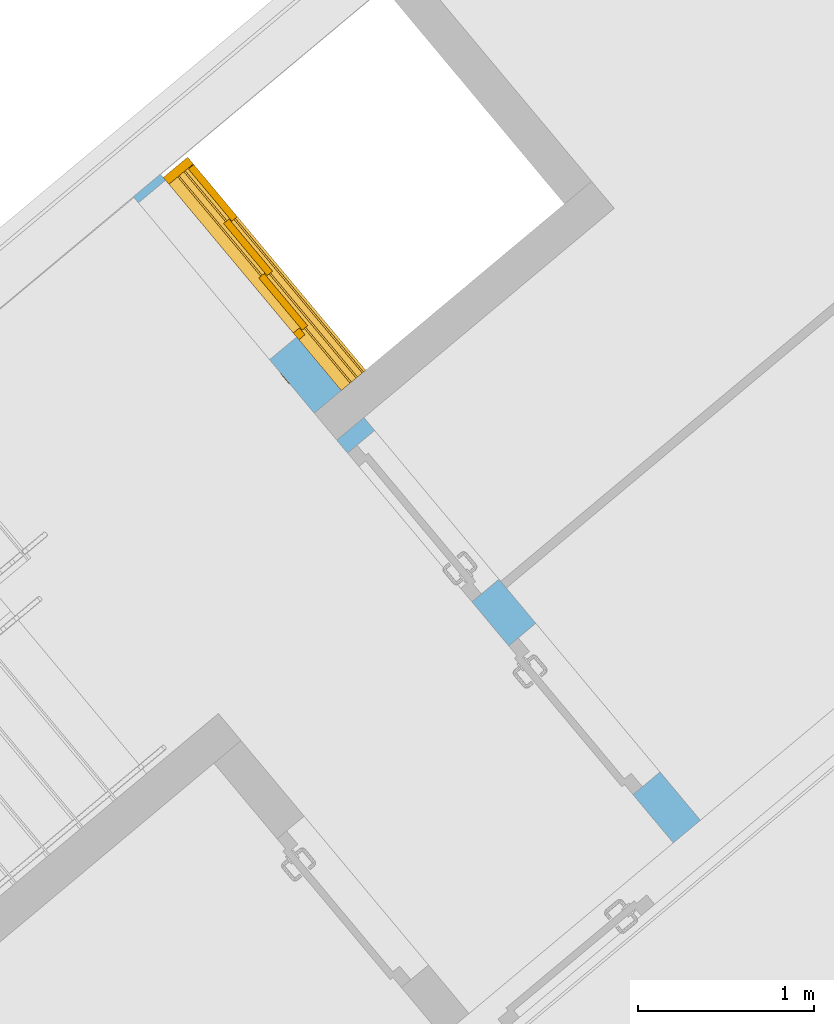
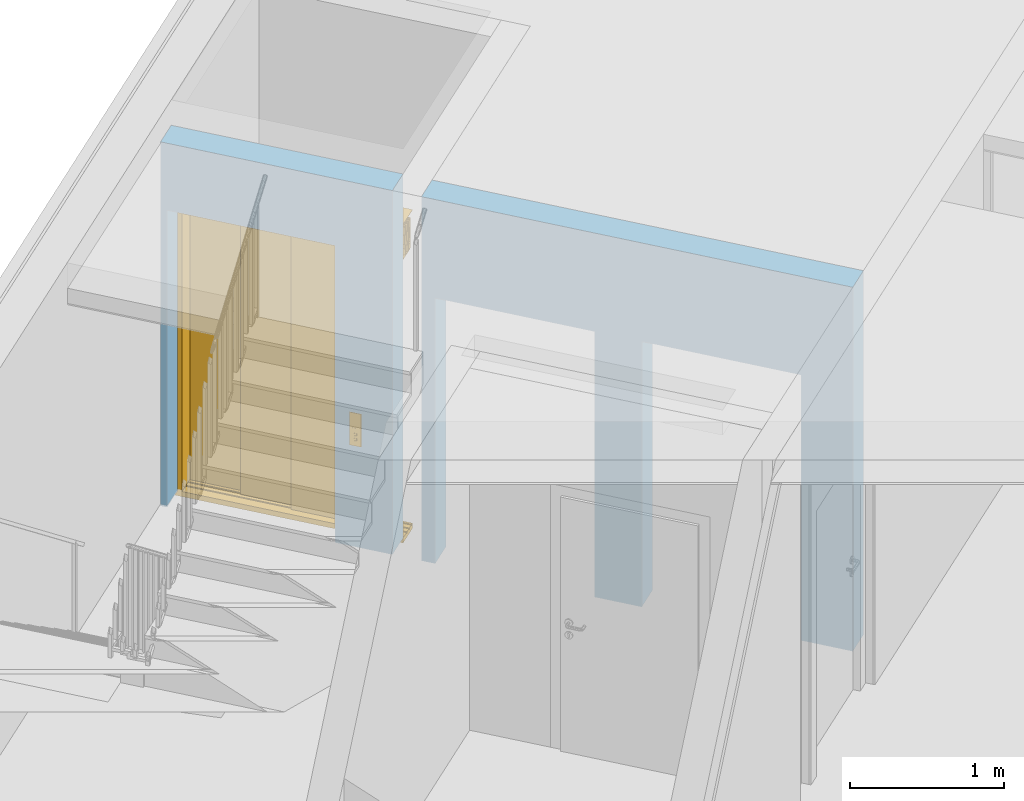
# One storey, part 5 of 17: 1 door, 3 openings, plus 1 element that does not belong to this part.
"""IFC4 building model written with IfcOpenShell, lengths in metres."""

from ifc_helpers import new_model, entity, si_unit, converted_unit, derived_unit, direction, frame, origin_with_axes, place, context, subcontext, project, spatial, polygons, material, type_object, element, fill, save


model = new_model("IFC4")

# Units and contexts
model_context = context("Model", 3, precision=1e-05, world=origin_with_axes(), true_north=direction((0.0, 1.0)))
body_context = subcontext(model_context, "Body", "Model", "MODEL_VIEW")
ifc_project = project(units=[si_unit("LENGTHUNIT", "METRE"), si_unit("AREAUNIT", "SQUARE_METRE"), si_unit("VOLUMEUNIT", "CUBIC_METRE"), converted_unit("PLANEANGLEUNIT", "DEGREE", entity("IfcPlaneAngleMeasure", 0.0174532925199), si_unit("PLANEANGLEUNIT", "RADIAN"), dimensions=[0, 0, 0, 0, 0, 0, 0]), converted_unit("TIMEUNIT", "Year", entity("IfcTimeMeasure", 31556926.0), si_unit("TIMEUNIT", "SECOND"), dimensions=[0, 0, 1, 0, 0, 0, 0]), si_unit("MASSUNIT", "GRAM", prefix="KILO"), si_unit("THERMODYNAMICTEMPERATUREUNIT", "DEGREE_CELSIUS"), si_unit("LUMINOUSINTENSITYUNIT", "LUMEN"), si_unit("ENERGYUNIT", "JOULE", prefix="MEGA"), derived_unit("THERMALCONDUCTANCEUNIT", [(si_unit("POWERUNIT", "WATT"), 1), (si_unit("LENGTHUNIT", "METRE"), -1), (si_unit("THERMODYNAMICTEMPERATUREUNIT", "KELVIN"), -1)]), derived_unit("SPECIFICHEATCAPACITYUNIT", [(si_unit("ENERGYUNIT", "JOULE"), 1), (si_unit("MASSUNIT", "GRAM", prefix="KILO"), -1), (si_unit("THERMODYNAMICTEMPERATUREUNIT", "KELVIN"), -1)]), derived_unit("MASSDENSITYUNIT", [(si_unit("MASSUNIT", "GRAM", prefix="KILO"), 1), (si_unit("VOLUMEUNIT", "CUBIC_METRE"), -1)])], contexts=[model_context])

# Site, building, storey
site_placement = place(None, frame((-0.00153261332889, -0.00661245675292, 0.0), z_axis=(0.0, 0.0, 1.0), x_axis=(1.0, 0.0, 0.0)))
site = spatial("IfcSite", under=ifc_project, at=site_placement, Name="Site", CompositionType="ELEMENT")
building_placement = place(site_placement, origin_with_axes())
building = spatial("IfcBuilding", under=site, at=building_placement, Name="Building", CompositionType="ELEMENT")
storey_placement = place(building_placement, frame((0.0, 0.0, -3.3), z_axis=(0.0, 0.0, 1.0), x_axis=(1.0, 0.0, 0.0)))
storey = spatial("IfcBuildingStorey", under=building, at=storey_placement, Name="UG1", CompositionType="ELEMENT", Elevation=-3.3)

# Wall, openings, door
ifc_material = material(Name="Stahlbeton Wand")
wall_type = type_object("IfcWallType", Name="Stahlbeton Wand 200", PredefinedType="NOTDEFINED")
wall_placement = place(storey_placement, frame((3.39972062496, 22.3471640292, 0.0), z_axis=(0.0, 0.0, 1.0), x_axis=(-0.641209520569, 0.767365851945, 0.0)))
wall = element("IfcWall", 1, at=wall_placement, inside=storey, type_object=wall_type, material=ifc_material, Name="Wand-009", PredefinedType="NOTDEFINED", context=body_context, shape_type="Tessellation", body=[
    polygons([(4.7320246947, -8.03421412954e-06, 2.35), (4.7320246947, -8.03415262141e-06, 0.015), (4.7320246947, -8.03415262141e-06, 0.0), (4.77700945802, 0.0, 0.0), (4.77700945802, 0.0, 2.88), (3.17702469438, 0.0, 2.88), (3.17702469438, 0.0, 0.0), (3.5720246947, -8.03421413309e-06, 0.0), (3.5720246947, -8.03421412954e-06, 0.015), (3.5720246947, -8.03421412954e-06, 2.35), (4.7320246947, 0.2, 2.35), (4.7320246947, 0.2, 0.015), (4.7320246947, 0.2, 0.0), (4.77700957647, 0.2, 0.0), (4.77700957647, 0.2, 2.88), (3.17702469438, 0.2, 2.88), (3.17702469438, 0.2, 0.0), (3.5720246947, 0.2, 0.0), (3.5720246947, 0.2, 0.015), (3.5720246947, 0.2, 2.35)], [[[1, 2, 3, 4, 5, 6, 7, 8, 9, 10]], [[2, 1, 11, 12]], [[2, 12, 13, 3]], [[3, 13, 14, 4]], [[4, 14, 15, 5]], [[5, 15, 16, 6]], [[16, 17, 7, 6]], [[18, 8, 7, 17]], [[19, 9, 8, 18]], [[10, 9, 19, 20]], [[1, 10, 20, 11]], [[20, 19, 18, 17, 16, 15, 14, 13, 12, 11]]], closed=True),
    polygons([(1.78187331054, 0.13, 0.015), (1.78187331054, 0.2, 0.015), (1.78187331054, 0.2, 2.1), (1.78187331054, 0.0, 2.1), (1.78187331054, 0.0, 0.015), (1.78187331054, 0.0, 0.0), (1.78187331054, 0.2, 0.0), (1.45642288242, 0.2, 0.0), (1.45642288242, 0.2, 0.015), (1.45642288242, 0.2, 2.1), (0.356422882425, 0.2, 2.1), (0.356422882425, 0.2, 0.015), (0.356422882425, 0.2, 0.0), (0.0, 0.2, 0.0), (0.0, 0.2, 2.88), (2.97702469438, 0.2, 2.88), (2.97702469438, 0.2, 0.0), (2.88187331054, 0.2, 0.0), (2.88187331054, 0.2, 0.015), (2.88187331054, 0.2, 2.1), (2.88187331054, 0.0, 2.1), (2.88187331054, 0.0, 0.015), (2.88187331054, 0.0, 0.0), (2.97702469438, 0.0, 0.0), (2.97702469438, 0.0, 2.88), (0.0, 0.0, 2.88), (0.0, 0.0, 0.0), (0.356422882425, 0.0, 0.0), (0.356422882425, 0.0, 0.015), (0.356422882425, 0.0, 2.1), (1.45642288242, 0.0, 2.1), (1.45642288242, 0.0, 0.015), (1.45642288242, 0.0, 0.0), (2.88187331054, 0.13, 0.015)], [[[1, 2, 3, 4, 5]], [[2, 1, 5, 6, 7]], [[3, 2, 7, 8, 9, 10, 11, 12, 13, 14, 15, 16, 17, 18, 19, 20]], [[4, 3, 20, 21]], [[6, 5, 4, 21, 22, 23, 24, 25, 26, 27, 28, 29, 30, 31, 32, 33]], [[33, 8, 7, 6]], [[8, 33, 32, 9]], [[10, 9, 32, 31]], [[11, 10, 31, 30]], [[12, 11, 30, 29]], [[28, 13, 12, 29]], [[27, 14, 13, 28]], [[27, 26, 15, 14]], [[15, 26, 25, 16]], [[16, 25, 24, 17]], [[17, 24, 23, 18]], [[34, 19, 18, 23, 22]], [[20, 19, 34, 22, 21]]], closed=True),
])
opening_1_placement = place(wall_placement, frame((0.906422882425, 0.0, 0.0), z_axis=(0.0, 0.0, 1.0), x_axis=(1.0, 0.0, 0.0)))
element("IfcOpeningElement", 2, at=opening_1_placement, cuts=wall, Name="Tür-001", context=body_context, identifier="Reference", shape_type="Tessellation", body=[
    polygons([(-0.55, -2.52370547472, 2.1), (-0.55, -2.52370547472, 0.0), (0.55, -2.52370547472, 0.0), (0.55, -2.52370547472, 2.1), (-0.55, 2.72370547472, 2.1), (-0.55, 2.72370547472, 0.0), (0.55, 2.72370547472, 0.0), (0.55, 2.72370547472, 2.1)], [[[1, 2, 3, 4]], [[5, 6, 2, 1]], [[6, 7, 3, 2]], [[7, 8, 4, 3]], [[8, 5, 1, 4]], [[7, 6, 5, 8]]], closed=True),
])
opening_2_placement = place(wall_placement, frame((2.33187331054, 0.0, 0.0), z_axis=(0.0, 0.0, 1.0), x_axis=(1.0, 0.0, 0.0)))
element("IfcOpeningElement", 3, at=opening_2_placement, cuts=wall, Name="Tür-001", context=body_context, identifier="Reference", shape_type="Tessellation", body=[
    polygons([(0.55, 0.13, 0.0), (0.55, 0.13, 2.1), (0.55, -2.52370547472, 2.1), (0.55, -2.52370547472, 0.0), (0.55, 2.72370547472, 0.0), (0.55, 2.72370547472, 2.1), (-0.55, 0.13, 2.1), (-0.55, -2.52370547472, 2.1), (-0.55, 2.72370547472, 2.1), (-0.55, -2.52370547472, 0.0), (-0.55, 0.13, 0.0), (-0.55, 2.72370547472, 0.0)], [[[1, 2, 3, 4]], [[2, 1, 5, 6]], [[7, 8, 3, 2, 6, 9]], [[8, 10, 4, 3]], [[1, 4, 10, 11, 12, 5]], [[6, 5, 12, 9]], [[7, 11, 10, 8]], [[11, 7, 9, 12]]], closed=True),
])
opening_3_placement = place(wall_placement, frame((4.1520246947, 0.0, 0.0), z_axis=(0.0, 0.0, 1.0), x_axis=(1.0, 0.0, 0.0)))
opening_3 = element("IfcOpeningElement", 4, at=opening_3_placement, cuts=wall, Name="Tür-003", context=body_context, identifier="Reference", shape_type="Tessellation", body=[
    polygons([(0.58, 2.72370547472, 2.35), (0.58, 2.72370547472, 0.0), (-0.58, 2.72370547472, 0.0), (-0.58, 2.72370547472, 2.35), (0.58, -2.52370547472, 2.35), (0.58, -2.52370547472, 0.0), (-0.58, -2.52370547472, 0.0), (-0.58, -2.52370547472, 2.35)], [[[1, 2, 3, 4]], [[5, 6, 2, 1]], [[6, 7, 3, 2]], [[7, 8, 4, 3]], [[8, 5, 1, 4]], [[7, 6, 5, 8]]], closed=True),
])
door_type = type_object("IfcDoorType", Name="Teleskoptür 26", OperationType="DOUBLE_DOOR_SLIDING", PredefinedType="NOTDEFINED")
door_placement = place(opening_3_placement, frame((0.55, 0.0, 0.0), z_axis=(0.0, 0.0, 1.0), x_axis=(-1.0, 0.0, 0.0)))
door = element("IfcDoor", 5, at=door_placement, inside=storey, type_object=door_type, Name="Tür-003", OverallHeight=2.35, OverallWidth=1.16, PredefinedType="NOTDEFINED", context=body_context, shape_type="Tessellation", body=[
    polygons([(1.525, 0.135, 2.2), (-0.05, 0.135, 2.2), (-0.05, 0.135, 2.238), (1.525, 0.135, 2.238), (1.525, 0.0, 2.2), (-0.05, 0.0, 2.2), (-0.05, 0.0, 2.48), (-0.05, 0.18, 2.48), (-0.05, 0.18, 2.477), (-0.05, 0.003, 2.477), (-0.05, 0.003, 2.203), (-0.05, 0.132, 2.203), (-0.05, 0.132, 2.238), (1.525, 0.132, 2.238), (1.525, 0.132, 2.203), (1.525, 0.003, 2.203), (1.525, 0.003, 2.477), (1.525, 0.18, 2.477), (1.525, 0.18, 2.48), (1.525, 0.0, 2.48)], [[[1, 2, 3, 4]], [[5, 6, 2, 1]], [[2, 6, 7, 8, 9, 10, 11, 12, 13, 3]], [[4, 3, 13, 14]], [[1, 4, 14, 15, 16, 17, 18, 19, 20, 5]], [[20, 7, 6, 5]], [[19, 8, 7, 20]], [[18, 9, 8, 19]], [[17, 10, 9, 18]], [[16, 11, 10, 17]], [[15, 12, 11, 16]], [[14, 13, 12, 15]]], closed=True),
    polygons([(1.525, 0.05, 2.203), (-0.05, 0.05, 2.203), (-0.05, 0.055, 2.203), (1.525, 0.055, 2.203), (1.525, 0.05, 2.44), (-0.05, 0.05, 2.44), (-0.05, 0.055, 2.44), (1.525, 0.055, 2.44)], [[[1, 2, 3, 4]], [[5, 6, 2, 1]], [[2, 6, 7, 3]], [[4, 3, 7, 8]], [[1, 4, 8, 5]], [[8, 7, 6, 5]]], closed=True),
    polygons([(1.525, 0.05, 2.43), (-0.05, 0.05, 2.43), (-0.05, 0.04, 2.43), (1.525, 0.04, 2.43), (1.525, 0.05, 2.37), (-0.05, 0.05, 2.37), (-0.05, 0.04, 2.37), (1.525, 0.04, 2.37)], [[[1, 2, 3, 4]], [[5, 6, 2, 1]], [[2, 6, 7, 3]], [[4, 3, 7, 8]], [[1, 4, 8, 5]], [[8, 7, 6, 5]]], closed=True),
    polygons([(1.525, 0.05, 2.3), (-0.05, 0.05, 2.3), (-0.05, 0.04, 2.3), (1.525, 0.04, 2.3), (1.525, 0.05, 2.26), (-0.05, 0.05, 2.26), (-0.05, 0.04, 2.26), (1.525, 0.04, 2.26)], [[[1, 2, 3, 4]], [[5, 6, 2, 1]], [[2, 6, 7, 3]], [[4, 3, 7, 8]], [[1, 4, 8, 5]], [[8, 7, 6, 5]]], closed=True),
    polygons([(1.525, 0.05, 2.37), (-0.05, 0.05, 2.37), (-0.05, 0.03, 2.37), (1.525, 0.03, 2.37), (1.525, 0.05, 2.3), (-0.05, 0.05, 2.3), (-0.05, 0.03, 2.3), (1.525, 0.03, 2.3)], [[[1, 2, 3, 4]], [[5, 6, 2, 1]], [[2, 6, 7, 3]], [[4, 3, 7, 8]], [[1, 4, 8, 5]], [[8, 7, 6, 5]]], closed=True),
    polygons([(1.525, 0.095, 2.203), (-0.05, 0.095, 2.203), (-0.05, 0.1, 2.203), (1.525, 0.1, 2.203), (1.525, 0.095, 2.44), (-0.05, 0.095, 2.44), (-0.05, 0.1, 2.44), (1.525, 0.1, 2.44)], [[[1, 2, 3, 4]], [[5, 6, 2, 1]], [[2, 6, 7, 3]], [[4, 3, 7, 8]], [[1, 4, 8, 5]], [[8, 7, 6, 5]]], closed=True),
    polygons([(1.525, 0.095, 2.43), (-0.05, 0.095, 2.43), (-0.05, 0.085, 2.43), (1.525, 0.085, 2.43), (1.525, 0.095, 2.37), (-0.05, 0.095, 2.37), (-0.05, 0.085, 2.37), (1.525, 0.085, 2.37)], [[[1, 2, 3, 4]], [[5, 6, 2, 1]], [[2, 6, 7, 3]], [[4, 3, 7, 8]], [[1, 4, 8, 5]], [[8, 7, 6, 5]]], closed=True),
    polygons([(1.525, 0.095, 2.3), (-0.05, 0.095, 2.3), (-0.05, 0.085, 2.3), (1.525, 0.085, 2.3), (1.525, 0.095, 2.26), (-0.05, 0.095, 2.26), (-0.05, 0.085, 2.26), (1.525, 0.085, 2.26)], [[[1, 2, 3, 4]], [[5, 6, 2, 1]], [[2, 6, 7, 3]], [[4, 3, 7, 8]], [[1, 4, 8, 5]], [[8, 7, 6, 5]]], closed=True),
    polygons([(1.525, 0.095, 2.37), (-0.05, 0.095, 2.37), (-0.05, 0.075, 2.37), (1.525, 0.075, 2.37), (1.525, 0.095, 2.3), (-0.05, 0.095, 2.3), (-0.05, 0.075, 2.3), (1.525, 0.075, 2.3)], [[[1, 2, 3, 4]], [[5, 6, 2, 1]], [[2, 6, 7, 3]], [[4, 3, 7, 8]], [[1, 4, 8, 5]], [[8, 7, 6, 5]]], closed=True),
    polygons([(1.525, 0.14, 2.203), (-0.05, 0.14, 2.203), (-0.05, 0.145, 2.203), (1.525, 0.145, 2.203), (1.525, 0.14, 2.44), (-0.05, 0.14, 2.44), (-0.05, 0.145, 2.44), (1.525, 0.145, 2.44)], [[[1, 2, 3, 4]], [[5, 6, 2, 1]], [[2, 6, 7, 3]], [[4, 3, 7, 8]], [[1, 4, 8, 5]], [[8, 7, 6, 5]]], closed=True),
    polygons([(1.525, 0.14, 2.43), (-0.05, 0.14, 2.43), (-0.05, 0.13, 2.43), (1.525, 0.13, 2.43), (1.525, 0.14, 2.37), (-0.05, 0.14, 2.37), (-0.05, 0.13, 2.37), (1.525, 0.13, 2.37)], [[[1, 2, 3, 4]], [[5, 6, 2, 1]], [[2, 6, 7, 3]], [[4, 3, 7, 8]], [[1, 4, 8, 5]], [[8, 7, 6, 5]]], closed=True),
    polygons([(1.525, 0.14, 2.3), (-0.05, 0.14, 2.3), (-0.05, 0.13, 2.3), (1.525, 0.13, 2.3), (1.525, 0.14, 2.26), (-0.05, 0.14, 2.26), (-0.05, 0.13, 2.26), (1.525, 0.13, 2.26)], [[[1, 2, 3, 4]], [[5, 6, 2, 1]], [[2, 6, 7, 3]], [[4, 3, 7, 8]], [[1, 4, 8, 5]], [[8, 7, 6, 5]]], closed=True),
    polygons([(1.525, 0.14, 2.37), (-0.05, 0.14, 2.37), (-0.05, 0.12, 2.37), (1.525, 0.12, 2.37), (1.525, 0.14, 2.3), (-0.05, 0.14, 2.3), (-0.05, 0.12, 2.3), (1.525, 0.12, 2.3)], [[[1, 2, 3, 4]], [[5, 6, 2, 1]], [[2, 6, 7, 3]], [[4, 3, 7, 8]], [[1, 4, 8, 5]], [[8, 7, 6, 5]]], closed=True),
    polygons([(1.525, 0.0, 0.0), (-0.05, 0.0, 0.0), (-0.05, 0.0, -0.04), (1.525, 0.0, -0.04), (1.525, 0.065, 0.0), (-0.05, 0.065, 0.0), (-0.05, 0.065, -0.01), (-0.05, 0.075, -0.01), (-0.05, 0.075, 0.0), (-0.05, 0.11, 0.0), (-0.05, 0.11, -0.01), (-0.05, 0.12, -0.01), (-0.05, 0.12, 0.0), (-0.05, 0.155, 0.0), (-0.05, 0.155, -0.01), (-0.05, 0.165, -0.01), (-0.05, 0.165, 0.0), (-0.05, 0.18, 0.0), (-0.05, 0.18, -0.04), (1.525, 0.18, -0.04), (1.525, 0.18, 0.0), (1.525, 0.165, 0.0), (1.525, 0.165, -0.01), (1.525, 0.155, -0.01), (1.525, 0.155, 0.0), (1.525, 0.12, 0.0), (1.525, 0.12, -0.01), (1.525, 0.11, -0.01), (1.525, 0.11, 0.0), (1.525, 0.075, 0.0), (1.525, 0.075, -0.01), (1.525, 0.065, -0.01)], [[[1, 2, 3, 4]], [[5, 6, 2, 1]], [[2, 6, 7, 8, 9, 10, 11, 12, 13, 14, 15, 16, 17, 18, 19, 3]], [[4, 3, 19, 20]], [[1, 4, 20, 21, 22, 23, 24, 25, 26, 27, 28, 29, 30, 31, 32, 5]], [[32, 7, 6, 5]], [[31, 8, 7, 32]], [[30, 9, 8, 31]], [[29, 10, 9, 30]], [[28, 11, 10, 29]], [[27, 12, 11, 28]], [[26, 13, 12, 27]], [[25, 14, 13, 26]], [[24, 15, 14, 25]], [[23, 16, 15, 24]], [[22, 17, 16, 23]], [[21, 18, 17, 22]], [[20, 19, 18, 21]]], closed=True),
    polygons([(1.1, 0.0, 0.0), (1.1, 0.0, 2.2), (1.1, 0.045, 2.2), (1.1, 0.045, 0.0), (1.15, 0.0, 0.0), (1.15, 0.0, 2.2), (1.15, 0.045, 2.2), (1.15, 0.045, 0.0)], [[[1, 2, 3, 4]], [[5, 6, 2, 1]], [[2, 6, 7, 3]], [[4, 3, 7, 8]], [[1, 4, 8, 5]], [[8, 7, 6, 5]]], closed=True),
    polygons([(-0.05, 0.0, 0.0), (-0.05, 0.0, 2.2), (-0.05, 0.18, 2.2), (-0.05, 0.18, 0.0), (0.0, 0.0, 0.0), (0.0, 0.0, 2.2), (0.0, 0.18, 2.2), (0.0, 0.18, 0.0)], [[[1, 2, 3, 4]], [[5, 6, 2, 1]], [[2, 6, 7, 3]], [[4, 3, 7, 8]], [[1, 4, 8, 5]], [[8, 7, 6, 5]]], closed=True),
    polygons([(1.23, -0.2, 0.8), (1.31, -0.2, 0.8), (1.31, -0.203, 0.8), (1.23, -0.203, 0.8), (1.23, -0.2, 1.06), (1.31, -0.2, 1.06), (1.24, -0.2, 1.03), (1.24, -0.2, 0.94), (1.3, -0.2, 0.94), (1.3, -0.2, 1.03), (1.26, -0.2, 0.84), (1.28, -0.2, 0.84), (1.28, -0.2, 0.86), (1.26, -0.2, 0.86), (1.26, -0.2, 0.88), (1.28, -0.2, 0.88), (1.28, -0.2, 0.9), (1.26, -0.2, 0.9), (1.31, -0.203, 1.06), (1.23, -0.203, 1.06), (1.24, -0.203, 1.03), (1.3, -0.203, 1.03), (1.3, -0.203, 0.94), (1.24, -0.203, 0.94), (1.26, -0.203, 0.84), (1.26, -0.203, 0.86), (1.28, -0.203, 0.86), (1.28, -0.203, 0.84), (1.26, -0.203, 0.88), (1.26, -0.203, 0.9), (1.28, -0.203, 0.9), (1.28, -0.203, 0.88)], [[[1, 2, 3, 4]], [[1, 5, 6, 2], [7, 8, 9, 10], [11, 12, 13, 14], [15, 16, 17, 18]], [[2, 6, 19, 3]], [[4, 3, 19, 20], [21, 22, 23, 24], [25, 26, 27, 28], [29, 30, 31, 32]], [[5, 1, 4, 20]], [[6, 5, 20, 19]], [[8, 7, 21, 24]], [[9, 8, 24, 23]], [[10, 9, 23, 22]], [[7, 10, 22, 21]], [[12, 11, 25, 28]], [[13, 12, 28, 27]], [[14, 13, 27, 26]], [[11, 14, 26, 25]], [[16, 15, 29, 32]], [[17, 16, 32, 31]], [[18, 17, 31, 30]], [[15, 18, 30, 29]]], closed=True),
    polygons([(1.24, -0.2, 0.94), (1.3, -0.2, 0.94), (1.3, -0.2025, 0.94), (1.24, -0.2025, 0.94), (1.24, -0.2, 1.03), (1.3, -0.2, 1.03), (1.3, -0.2025, 1.03), (1.24, -0.2025, 1.03)], [[[1, 2, 3, 4]], [[1, 5, 6, 2]], [[2, 6, 7, 3]], [[4, 3, 7, 8]], [[5, 1, 4, 8]], [[6, 5, 8, 7]]], closed=True),
    polygons([(1.254, -0.203, 1.005), (1.26, -0.203, 1.021), (1.266, -0.203, 1.005)], [[[1, 2, 3]]], closed=False),
    polygons([(1.28, -0.203, 1.005), (1.274, -0.203, 1.021), (1.286, -0.203, 1.021)], [[[1, 2, 3]]], closed=False),
    polygons([(1.26727272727, -0.2035, 0.982), (1.26727272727, -0.2035, 0.971636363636), (1.26590909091, -0.2035, 0.970272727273), (1.26454545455, -0.2035, 0.971636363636), (1.26454545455, -0.2035, 0.982), (1.26590909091, -0.2035, 0.983363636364)], [[[1, 2, 3, 4, 5, 6]]], closed=False),
    polygons([(1.26727272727, -0.2035, 0.968363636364), (1.26727272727, -0.2035, 0.958), (1.26590909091, -0.2035, 0.956636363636), (1.26454545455, -0.2035, 0.958), (1.26454545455, -0.2035, 0.968363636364), (1.26590909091, -0.2035, 0.969727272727)], [[[1, 2, 3, 4, 5, 6]]], closed=False),
    polygons([(1.28609090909, -0.2035, 0.982272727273), (1.27572727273, -0.2035, 0.982272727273), (1.27436363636, -0.2035, 0.983636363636), (1.27572727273, -0.2035, 0.985), (1.28609090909, -0.2035, 0.985), (1.28745454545, -0.2035, 0.983636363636)], [[[1, 2, 3, 4, 5, 6]]], closed=False),
    polygons([(1.28909090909, -0.2035, 0.982), (1.28909090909, -0.2035, 0.971636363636), (1.28772727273, -0.2035, 0.970272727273), (1.28636363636, -0.2035, 0.971636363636), (1.28636363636, -0.2035, 0.982), (1.28772727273, -0.2035, 0.983363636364)], [[[1, 2, 3, 4, 5, 6]]], closed=False),
    polygons([(1.28609090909, -0.2035, 0.968636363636), (1.27572727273, -0.2035, 0.968636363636), (1.27436363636, -0.2035, 0.97), (1.27572727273, -0.2035, 0.971363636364), (1.28609090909, -0.2035, 0.971363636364), (1.28745454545, -0.2035, 0.97)], [[[1, 2, 3, 4, 5, 6]]], closed=False),
    polygons([(1.27545454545, -0.2035, 0.968363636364), (1.27545454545, -0.2035, 0.958), (1.27409090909, -0.2035, 0.956636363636), (1.27272727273, -0.2035, 0.958), (1.27272727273, -0.2035, 0.968363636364), (1.27409090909, -0.2035, 0.969727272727)], [[[1, 2, 3, 4, 5, 6]]], closed=False),
    polygons([(1.28609090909, -0.2035, 0.955), (1.27572727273, -0.2035, 0.955), (1.27436363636, -0.2035, 0.956363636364), (1.27572727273, -0.2035, 0.957727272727), (1.28609090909, -0.2035, 0.957727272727), (1.28745454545, -0.2035, 0.956363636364)], [[[1, 2, 3, 4, 5, 6]]], closed=False),
    polygons([(1.28, -0.2, 0.84), (1.26, -0.2, 0.84), (1.26, -0.2, 0.86), (1.28, -0.2, 0.86), (1.28000000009, -0.2015, 0.83999999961), (1.25999999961, -0.2015, 0.83999999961), (1.25999999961, -0.2015, 0.860000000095), (1.28000000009, -0.2015, 0.860000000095), (1.27859999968, -0.202900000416, 0.841400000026), (1.26140000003, -0.202900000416, 0.841400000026), (1.26140000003, -0.202900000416, 0.858599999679), (1.27859999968, -0.202900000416, 0.858599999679)], [[[1, 2, 3, 4]], [[2, 1, 5, 6]], [[3, 2, 6, 7]], [[4, 3, 7, 8]], [[1, 4, 8, 5]], [[6, 5, 9, 10]], [[7, 6, 10, 11]], [[8, 7, 11, 12]], [[5, 8, 12, 9]], [[11, 10, 9, 12]]], closed=True),
    polygons([(1.275, -0.203, 0.855), (1.27, -0.203, 0.844), (1.265, -0.203, 0.855)], [[[1, 2, 3]]], closed=False),
    polygons([(1.28, -0.2, 0.88), (1.26, -0.2, 0.88), (1.26, -0.2, 0.9), (1.28, -0.2, 0.9), (1.28000000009, -0.2015, 0.87999999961), (1.25999999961, -0.2015, 0.87999999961), (1.25999999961, -0.2015, 0.900000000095), (1.28000000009, -0.2015, 0.900000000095), (1.27859999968, -0.202900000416, 0.881400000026), (1.26140000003, -0.202900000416, 0.881400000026), (1.26140000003, -0.202900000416, 0.898599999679), (1.27859999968, -0.202900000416, 0.898599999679)], [[[1, 2, 3, 4]], [[2, 1, 5, 6]], [[3, 2, 6, 7]], [[4, 3, 7, 8]], [[1, 4, 8, 5]], [[6, 5, 9, 10]], [[7, 6, 10, 11]], [[8, 7, 11, 12]], [[5, 8, 12, 9]], [[11, 10, 9, 12]]], closed=True),
    polygons([(1.275, -0.203, 0.885), (1.265, -0.203, 0.885), (1.27, -0.203, 0.896)], [[[1, 2, 3]]], closed=False),
    polygons([(0.39, 0.14, 0.003), (0.005, 0.14, 0.003), (0.005, 0.18, 0.003), (0.39, 0.18, 0.003), (0.39, 0.14, 2.2), (0.005, 0.14, 2.2), (0.005, 0.18, 2.2), (0.39, 0.18, 2.2)], [[[1, 2, 3, 4]], [[1, 5, 6, 2]], [[2, 6, 7, 3]], [[4, 3, 7, 8]], [[5, 1, 4, 8]], [[6, 5, 8, 7]]], closed=True),
    polygons([(0.755, 0.095, 0.003), (0.37, 0.095, 0.003), (0.37, 0.135, 0.003), (0.755, 0.135, 0.003), (0.755, 0.095, 2.2), (0.37, 0.095, 2.2), (0.37, 0.135, 2.2), (0.755, 0.135, 2.2)], [[[1, 2, 3, 4]], [[1, 5, 6, 2]], [[2, 6, 7, 3]], [[4, 3, 7, 8]], [[5, 1, 4, 8]], [[6, 5, 8, 7]]], closed=True),
    polygons([(1.12, 0.05, 0.003), (0.735, 0.05, 0.003), (0.735, 0.09, 0.003), (1.12, 0.09, 0.003), (1.12, 0.05, 2.2), (0.735, 0.05, 2.2), (0.735, 0.09, 2.2), (1.12, 0.09, 2.2)], [[[1, 2, 3, 4]], [[1, 5, 6, 2]], [[2, 6, 7, 3]], [[4, 3, 7, 8]], [[5, 1, 4, 8]], [[6, 5, 8, 7]]], closed=True),
])
fill(opening_3, door)

save(model, "model.ifc")
